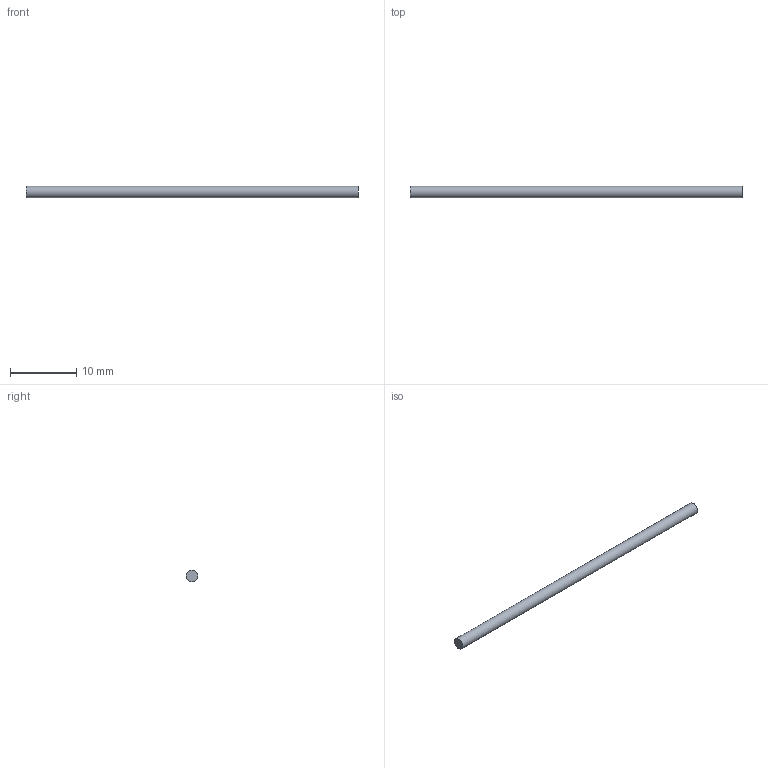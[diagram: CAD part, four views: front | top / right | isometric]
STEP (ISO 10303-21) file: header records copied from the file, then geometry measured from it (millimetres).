
FILE_DESCRIPTION(('Open CASCADE Model'),'2;1');
FILE_NAME('Open CASCADE Shape Model','2026-09-30T20:51:50',('Author'),( 'Open CASCADE'),'Open CASCADE STEP processor 7.9','Open CASCADE 7.9' ,'Unknown');
FILE_SCHEMA(('AUTOMOTIVE_DESIGN { 1 0 10303 214 1 1 1 1 }'));
Length unit declared in the file: millimetre
Products named in the file (1): Open CASCADE STEP translator 7.9 13
Bounding box: 50 x 1.75 x 1.75 mm (x, y, z)
Volume: 120.3 mm3; surface area: 279.7 mm2
Topology: 1 solids, 1 shells, 3 faces, 3 edges, 2 vertices
Faces by surface type: plane 2, cylinder 1
Full cylindrical faces by diameter (mm): 1.75 x1
Entity records: 108 total; most frequent: DIRECTION 19, CARTESIAN_POINT 15, AXIS2_PLACEMENT_3D 6, ORIENTED_EDGE 6, PCURVE 6, DEFINITIONAL_REPRESENTATION 6, LINE 5, VECTOR 5
